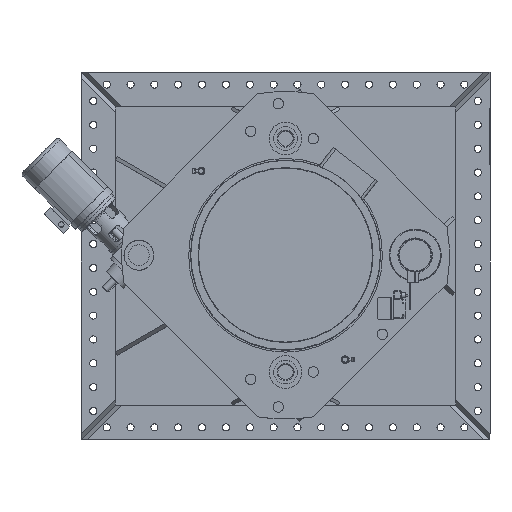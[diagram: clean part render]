
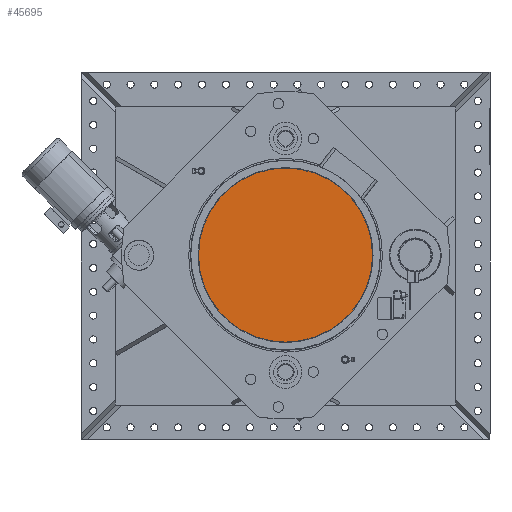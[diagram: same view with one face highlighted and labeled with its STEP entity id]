
A CAD part, top view. The second image highlights one B-rep face of the part: STEP entity #45695.
In plain terms, the highlighted planar face has unit normal (0, 0, 1).
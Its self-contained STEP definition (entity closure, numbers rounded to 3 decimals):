
#7773=PLANE('',#49372);
#9636=FACE_OUTER_BOUND('',#12148,.T.);
#12148=EDGE_LOOP('',(#34013));
#15056=CIRCLE('',#49183,292.1);
#19084=VERTEX_POINT('',#77037);
#24309=EDGE_CURVE('',#19084,#19084,#15056,.T.);
#34013=ORIENTED_EDGE('',*,*,#24309,.F.);
#45695=ADVANCED_FACE('',(#9636),#7773,.T.);
#49183=AXIS2_PLACEMENT_3D('',#77039,#56942,#56943);
#49372=AXIS2_PLACEMENT_3D('',#78100,#57415,#57416);
#56942=DIRECTION('center_axis',(0.,0.,
-1.));
#56943=DIRECTION('ref_axis',(-0.5,0.866,0.));
#57415=DIRECTION('center_axis',(0.,0.,
1.));
#57416=DIRECTION('ref_axis',(0.5,-0.866,0.));
#77037=CARTESIAN_POINT('',(146.05,-252.966,1796.65));
#77039=CARTESIAN_POINT('Origin',(0.,0.,
1796.65));
#78100=CARTESIAN_POINT('Origin',(0.,0.,
1796.65));
